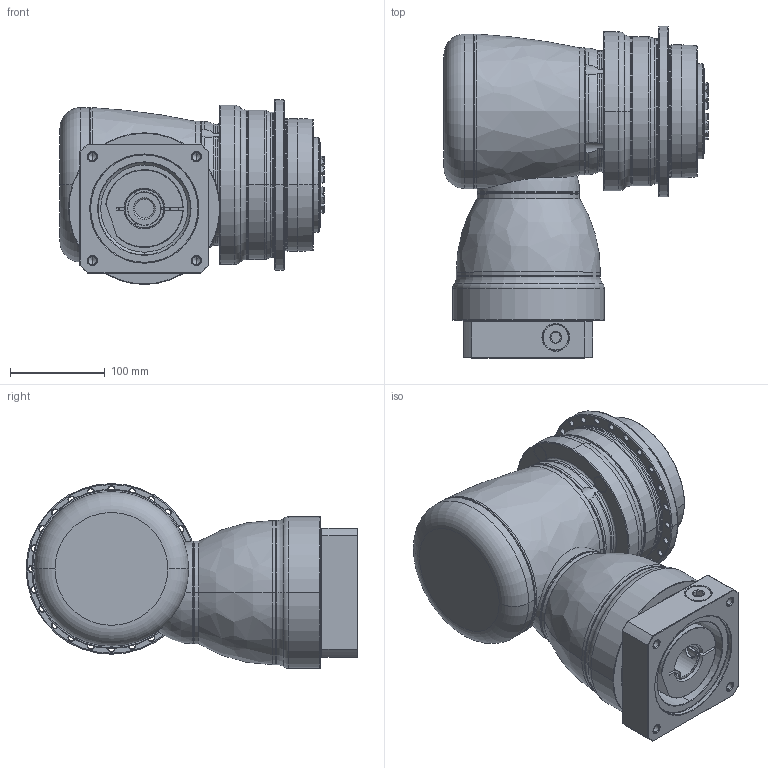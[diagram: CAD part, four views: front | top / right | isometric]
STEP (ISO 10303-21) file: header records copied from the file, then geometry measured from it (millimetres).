
FILE_DESCRIPTION((''),'2;1');
FILE_NAME('APCK140_2ST_35-P0409800201_ASM','2018-05-09T',('d01226'),(''),'PRO/ENGINEER BY PARAMETRIC TECHNOLOGY CORPORATION, 2008410','PRO/ENGINEER BY PARAMETRIC TECHNOLOGY CORPORATION, 2008410','');
FILE_SCHEMA(('CONFIG_CONTROL_DESIGN'));
Length unit declared in the file: millimetre
Products named in the file (13): P1008500002; P1802510011; P0278501003; P03595D0103; P1211500001; P1315500001; P1007501001; P1318501301; P0409800201; P0503800012; P0912503001; 21711422019; APCK140_2ST_35-P0409800201_ASM
Assembly tree (12 placements, depth 2):
  APCK140_2ST_35-P0409800201_ASM
    P1008500002
    P1802510011
    P0278501003
    P03595D0103
    P1211500001
    P1315500001
    P1007501001
    P1318501301
    P0409800201
    P0503800012
    P0912503001
    21711422019
Bounding box: 278.6 x 350 x 195 mm (x, y, z)
Volume: 7672507.7 mm3; surface area: 690649.7 mm2
Topology: 13 solids, 23 shells, 794 faces, 1876 edges, 1154 vertices
Faces by surface type: cylinder 263, cone 234, plane 146, torus 130, bspline 19, sphere 2
Entity records: 29121 total; most frequent: CARTESIAN_POINT 10229, DIRECTION 4244, ORIENTED_EDGE 3682, EDGE_CURVE 1862, AXIS2_PLACEMENT_3D 1855, VERTEX_POINT 1154, CIRCLE 1045, EDGE_LOOP 918
